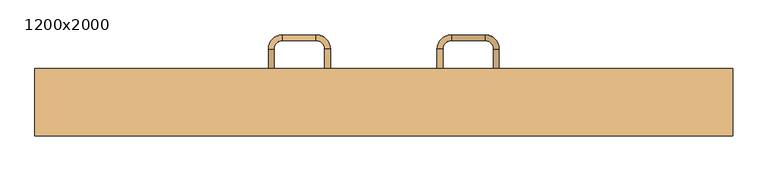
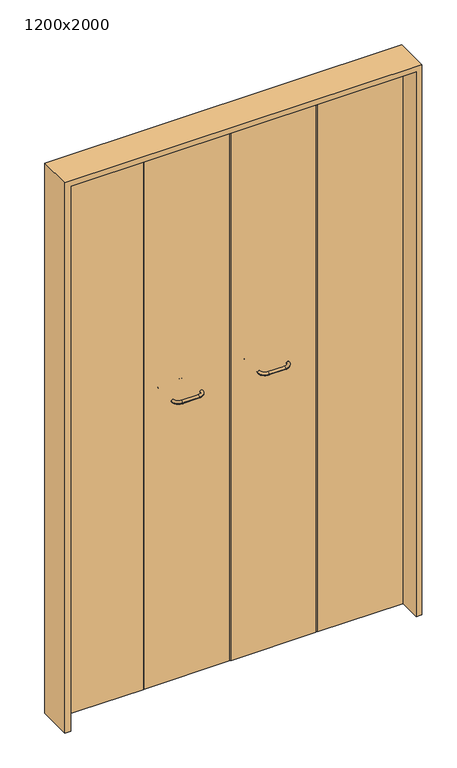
"""IFC4 building model written with IfcOpenShell, lengths in millimetres: door geometry, 木製折戸 : 1200x2000."""

from ifc_helpers import new_model, si_unit, point, frame, origin, origin_with_axes, place, context, project, spatial, polyline, circle_curve, ellipse_curve, trimmed, outline, extrude, source, transform, mapped, element, save
from ifc_brep_helpers import cylinder_surface, revolved_surface, advanced_brep


def door_1200x2000_6a144d60(model_context):
    return source(origin(), model_context, "Body", "SolidModel", [
        extrude(outline(polyline([(2020.0, -620.0), (0.0, -620.0), (0.0, -600.0), (2000.0, -600.0), (2000.0, 600.0), (0.0, 600.0), (0.0, 620.0), (2020.0, 620.0), (2020.0, -620.0)])), frame((0.0, -60.0, 0.0), z_axis=(0.0, 1.0, 0.0), x_axis=(0.0, 0.0, 1.0)), (0.0, 0.0, 1.0), 120.0),
        extrude(outline(polyline([(298.0, 20.0), (2.0, 20.0), (2.0, 50.0), (298.0, 50.0), (298.0, 20.0)])), origin_with_axes(), (0.0, 0.0, 1.0), 2000.0),
        extrude(outline(polyline([(600.0, 20.0), (302.0, 20.0), (302.0, 50.0), (600.0, 50.0), (600.0, 20.0)])), origin_with_axes(), (0.0, 0.0, 1.0), 2000.0),
        extrude(outline(polyline([(-2.0, 20.0), (-298.0, 20.0), (-298.0, 50.0), (-2.0, 50.0), (-2.0, 20.0)])), origin_with_axes(), (0.0, 0.0, 1.0), 2000.0),
        extrude(outline(polyline([(-302.0, 20.0), (-600.0, 20.0), (-600.0, 50.0), (-302.0, 50.0), (-302.0, 20.0)])), origin_with_axes(), (0.0, 0.0, 1.0), 2000.0),
        advanced_brep(
        [(95.0, 20.0, 1025.0), (120.0, -5.0, 1025.0), (120.0, 5.0, 1025.0), (105.0, 20.0, 1025.0), (105.0, 95.0, 1025.0), (95.0, 95.0, 1025.0), (120.0, 120.0, 1025.0), (120.0, 110.0, 1025.0), (180.0, 110.0, 1025.0), (180.0, 120.0, 1025.0), (205.0, 95.0, 1025.0), (195.0, 95.0, 1025.0), (195.0, 20.0, 1025.0), (205.0, 20.0, 1025.0), (180.0, -5.0, 1025.0), (180.0, 5.0, 1025.0)],
        [
            (0, 1, circle_curve(frame((120.0, 20.0, 1025.0), z_axis=(0.0, 0.0, 1.0), x_axis=(0.0, -1.0, 0.0)), 25.0)),
            (1, 2, circle_curve(frame((120.0, 0.0, 1025.0), z_axis=(-1.0, 0.0, 0.0), x_axis=(0.0, -1.0, 0.0)), 5.0)),
            (2, 3, circle_curve(frame((120.0, 20.0, 1025.0), z_axis=(0.0, 0.0, -1.0), x_axis=(0.0, -1.0, 0.0)), 15.0)),
            (3, 0, circle_curve(frame((100.0, 20.0, 1025.0), z_axis=(0.0, -1.0, 0.0), x_axis=(-1.0, 0.0, 0.0)), 5.0)),
            (2, 1, circle_curve(frame((120.0, 0.0, 1025.0), z_axis=(-1.0, 0.0, 0.0), x_axis=(0.0, -1.0, 0.0)), 5.0)),
            (0, 3, circle_curve(frame((100.0, 20.0, 1025.0), z_axis=(0.0, -1.0, 0.0), x_axis=(-1.0, 0.0, 0.0)), 5.0)),
            (3, 4),
            (4, 5, circle_curve(frame((100.0, 95.0, 1025.0), z_axis=(0.0, -1.0, 0.0), x_axis=(-1.0, 0.0, 0.0)), 5.0)),
            (5, 0),
            (5, 4, circle_curve(frame((100.0, 95.0, 1025.0), z_axis=(0.0, -1.0, 0.0), x_axis=(-1.0, 0.0, 0.0)), 5.0)),
            (6, 5, circle_curve(frame((120.0, 95.0, 1025.0), z_axis=(0.0, 0.0, 1.0), x_axis=(-1.0, 0.0, 0.0)), 25.0)),
            (4, 7, circle_curve(frame((120.0, 95.0, 1025.0), z_axis=(0.0, 0.0, -1.0), x_axis=(-1.0, 0.0, 0.0)), 15.0)),
            (7, 6, circle_curve(frame((120.0, 115.0, 1025.0), z_axis=(-1.0, 0.0, 0.0), x_axis=(0.0, 1.0, 0.0)), 5.0)),
            (6, 7, circle_curve(frame((120.0, 115.0, 1025.0), z_axis=(-1.0, 0.0, 0.0), x_axis=(0.0, 1.0, 0.0)), 5.0)),
            (7, 8),
            (8, 9, circle_curve(frame((180.0, 115.0, 1025.0), z_axis=(-1.0, 0.0, 0.0), x_axis=(0.0, 1.0, 0.0)), 5.0)),
            (9, 6),
            (9, 8, circle_curve(frame((180.0, 115.0, 1025.0), z_axis=(-1.0, 0.0, 0.0), x_axis=(0.0, 1.0, 0.0)), 5.0)),
            (10, 9, circle_curve(frame((180.0, 95.0, 1025.0), z_axis=(0.0, 0.0, 1.0), x_axis=(0.0, 1.0, 0.0)), 25.0)),
            (8, 11, circle_curve(frame((180.0, 95.0, 1025.0), z_axis=(0.0, 0.0, -1.0), x_axis=(0.0, 1.0, 0.0)), 15.0)),
            (11, 10, circle_curve(frame((200.0, 95.0, 1025.0), z_axis=(0.0, 1.0, 0.0), x_axis=(1.0, 0.0, 0.0)), 5.0)),
            (10, 11, circle_curve(frame((200.0, 95.0, 1025.0), z_axis=(0.0, 1.0, 0.0), x_axis=(1.0, 0.0, 0.0)), 5.0)),
            (11, 12),
            (12, 13, circle_curve(frame((200.0, 20.0, 1025.0), z_axis=(0.0, 1.0, 0.0), x_axis=(1.0, 0.0, 0.0)), 5.0)),
            (13, 10),
            (13, 12, circle_curve(frame((200.0, 20.0, 1025.0), z_axis=(0.0, 1.0, 0.0), x_axis=(1.0, 0.0, 0.0)), 5.0)),
            (14, 13, circle_curve(frame((180.0, 20.0, 1025.0), z_axis=(0.0, 0.0, 1.0), x_axis=(1.0, 0.0, 0.0)), 25.0)),
            (12, 15, circle_curve(frame((180.0, 20.0, 1025.0), z_axis=(0.0, 0.0, -1.0), x_axis=(1.0, 0.0, 0.0)), 15.0)),
            (15, 14, circle_curve(frame((180.0, 0.0, 1025.0), z_axis=(1.0, 0.0, 0.0), x_axis=(0.0, -1.0, 0.0)), 5.0)),
            (14, 15, circle_curve(frame((180.0, 0.0, 1025.0), z_axis=(1.0, 0.0, 0.0), x_axis=(0.0, -1.0, 0.0)), 5.0)),
            (15, 2),
            (1, 14),
        ],
        [
            revolved_surface(trimmed(ellipse_curve(frame((120.0, 0.0, 1025.0), z_axis=(1.0, 0.0, 0.0), x_axis=(0.0, -1.0, 0.0)), 5.0, 5.0), [point((120.0, 5.0, 1025.0))], [point((120.0, -5.0, 1025.0))], True, "CARTESIAN"), (120.0, 20.0, 0.0), (0.0, 0.0, -1.0)),
            revolved_surface(trimmed(ellipse_curve(frame((120.0, 0.0, 1025.0), z_axis=(1.0, 0.0, 0.0), x_axis=(0.0, -1.0, 0.0)), 5.0, 5.0), [point((120.0, -5.0, 1025.0))], [point((120.0, 5.0, 1025.0))], True, "CARTESIAN"), (120.0, 20.0, 0.0), (0.0, 0.0, -1.0)),
            cylinder_surface(frame((100.0, 20.0, 1025.0), z_axis=(0.0, -1.0, 0.0), x_axis=(-1.0, 0.0, 0.0)), 5.0),
            revolved_surface(trimmed(ellipse_curve(frame((100.0, 95.0, 1025.0), z_axis=(0.0, -1.0, 0.0), x_axis=(-1.0, 0.0, 0.0)), 5.0, 5.0), [point((105.0, 95.0, 1025.0))], [point((95.0, 95.0, 1025.0))], True, "CARTESIAN"), (120.0, 95.0, 0.0), (0.0, 0.0, -1.0)),
            revolved_surface(trimmed(ellipse_curve(frame((100.0, 95.0, 1025.0), z_axis=(0.0, -1.0, 0.0), x_axis=(-1.0, 0.0, 0.0)), 5.0, 5.0), [point((95.0, 95.0, 1025.0))], [point((105.0, 95.0, 1025.0))], True, "CARTESIAN"), (120.0, 95.0, 0.0), (0.0, 0.0, -1.0)),
            cylinder_surface(frame((120.0, 115.0, 1025.0), z_axis=(-1.0, 0.0, 0.0), x_axis=(0.0, 1.0, 0.0)), 5.0),
            revolved_surface(trimmed(ellipse_curve(frame((180.0, 115.0, 1025.0), z_axis=(-1.0, 0.0, 0.0), x_axis=(0.0, 1.0, 0.0)), 5.0, 5.0), [point((180.0, 110.0, 1025.0))], [point((180.0, 120.0, 1025.0))], True, "CARTESIAN"), (180.0, 95.0, 0.0), (0.0, 0.0, -1.0)),
            revolved_surface(trimmed(ellipse_curve(frame((180.0, 115.0, 1025.0), z_axis=(-1.0, 0.0, 0.0), x_axis=(0.0, 1.0, 0.0)), 5.0, 5.0), [point((180.0, 120.0, 1025.0))], [point((180.0, 110.0, 1025.0))], True, "CARTESIAN"), (180.0, 95.0, 0.0), (0.0, 0.0, -1.0)),
            cylinder_surface(frame((200.0, 95.0, 1025.0), z_axis=(0.0, 1.0, 0.0), x_axis=(1.0, 0.0, 0.0)), 5.0),
            revolved_surface(trimmed(ellipse_curve(frame((200.0, 20.0, 1025.0), z_axis=(0.0, 1.0, 0.0), x_axis=(1.0, 0.0, 0.0)), 5.0, 5.0), [point((195.0, 20.0, 1025.0))], [point((205.0, 20.0, 1025.0))], True, "CARTESIAN"), (180.0, 20.0, 0.0), (0.0, 0.0, -1.0)),
            revolved_surface(trimmed(ellipse_curve(frame((200.0, 20.0, 1025.0), z_axis=(0.0, 1.0, 0.0), x_axis=(1.0, 0.0, 0.0)), 5.0, 5.0), [point((205.0, 20.0, 1025.0))], [point((195.0, 20.0, 1025.0))], True, "CARTESIAN"), (180.0, 20.0, 0.0), (0.0, 0.0, -1.0)),
            cylinder_surface(frame((180.0, 0.0, 1025.0), z_axis=(1.0, 0.0, 0.0), x_axis=(0.0, -1.0, 0.0)), 5.0),
        ],
        [
            (0, [[1, 2, 3, 4]]),
            (1, [[-3, 5, -1, 6]]),
            (2, [[-4, 7, 8, 9]]),
            (2, [[-6, -9, 10, -7]]),
            (3, [[11, -8, 12, 13]]),
            (4, [[-12, -10, -11, 14]]),
            (5, [[-13, 15, 16, 17]]),
            (5, [[-14, -17, 18, -15]]),
            (6, [[19, -16, 20, 21]]),
            (7, [[-20, -18, -19, 22]]),
            (8, [[-21, 23, 24, 25]]),
            (8, [[-22, -25, 26, -23]]),
            (9, [[27, -24, 28, 29]]),
            (10, [[-28, -26, -27, 30]]),
            (11, [[-29, 31, -2, 32]]),
            (11, [[-30, -32, -5, -31]]),
        ],
    ),
        advanced_brep(
        [(-105.0, 20.0, 1025.0), (-120.0, 5.0, 1025.0), (-120.0, -5.0, 1025.0), (-95.0, 20.0, 1025.0), (-95.0, 95.0, 1025.0), (-105.0, 95.0, 1025.0), (-120.0, 110.0, 1025.0), (-120.0, 120.0, 1025.0), (-180.0, 120.0, 1025.0), (-180.0, 110.0, 1025.0), (-195.0, 95.0, 1025.0), (-205.0, 95.0, 1025.0), (-205.0, 20.0, 1025.0), (-195.0, 20.0, 1025.0), (-180.0, 5.0, 1025.0), (-180.0, -5.0, 1025.0)],
        [
            (0, 1, circle_curve(frame((-120.0, 20.0, 1025.0), z_axis=(0.0, 0.0, -1.0), x_axis=(0.0, -1.0, 0.0)), 15.0)),
            (1, 2, circle_curve(frame((-120.0, 0.0, 1025.0), z_axis=(1.0, 0.0, 0.0), x_axis=(0.0, 1.0, 0.0)), 5.0)),
            (2, 3, circle_curve(frame((-120.0, 20.0, 1025.0), z_axis=(0.0, 0.0, 1.0), x_axis=(0.0, -1.0, 0.0)), 25.0)),
            (3, 0, circle_curve(frame((-100.0, 20.0, 1025.0), z_axis=(0.0, -1.0, 0.0), x_axis=(-1.0, 0.0, 0.0)), 5.0)),
            (2, 1, circle_curve(frame((-120.0, 0.0, 1025.0), z_axis=(1.0, 0.0, 0.0), x_axis=(0.0, 1.0, 0.0)), 5.0)),
            (0, 3, circle_curve(frame((-100.0, 20.0, 1025.0), z_axis=(0.0, -1.0, 0.0), x_axis=(-1.0, 0.0, 0.0)), 5.0)),
            (3, 4),
            (4, 5, circle_curve(frame((-100.0, 95.0, 1025.0), z_axis=(0.0, -1.0, 0.0), x_axis=(-1.0, 0.0, 0.0)), 5.0)),
            (5, 0),
            (5, 4, circle_curve(frame((-100.0, 95.0, 1025.0), z_axis=(0.0, -1.0, 0.0), x_axis=(-1.0, 0.0, 0.0)), 5.0)),
            (6, 5, circle_curve(frame((-120.0, 95.0, 1025.0), z_axis=(0.0, 0.0, -1.0), x_axis=(1.0, 0.0, 0.0)), 15.0)),
            (4, 7, circle_curve(frame((-120.0, 95.0, 1025.0), z_axis=(0.0, 0.0, 1.0), x_axis=(1.0, 0.0, 0.0)), 25.0)),
            (7, 6, circle_curve(frame((-120.0, 115.0, 1025.0), z_axis=(1.0, 0.0, 0.0), x_axis=(0.0, -1.0, 0.0)), 5.0)),
            (6, 7, circle_curve(frame((-120.0, 115.0, 1025.0), z_axis=(1.0, 0.0, 0.0), x_axis=(0.0, -1.0, 0.0)), 5.0)),
            (7, 8),
            (8, 9, circle_curve(frame((-180.0, 115.0, 1025.0), z_axis=(1.0, 0.0, 0.0), x_axis=(0.0, -1.0, 0.0)), 5.0)),
            (9, 6),
            (9, 8, circle_curve(frame((-180.0, 115.0, 1025.0), z_axis=(1.0, 0.0, 0.0), x_axis=(0.0, -1.0, 0.0)), 5.0)),
            (10, 9, circle_curve(frame((-180.0, 95.0, 1025.0), z_axis=(0.0, 0.0, -1.0), x_axis=(0.0, 1.0, 0.0)), 15.0)),
            (8, 11, circle_curve(frame((-180.0, 95.0, 1025.0), z_axis=(0.0, 0.0, 1.0), x_axis=(0.0, 1.0, 0.0)), 25.0)),
            (11, 10, circle_curve(frame((-200.0, 95.0, 1025.0), z_axis=(0.0, 1.0, 0.0), x_axis=(1.0, 0.0, 0.0)), 5.0)),
            (10, 11, circle_curve(frame((-200.0, 95.0, 1025.0), z_axis=(0.0, 1.0, 0.0), x_axis=(1.0, 0.0, 0.0)), 5.0)),
            (11, 12),
            (12, 13, circle_curve(frame((-200.0, 20.0, 1025.0), z_axis=(0.0, 1.0, 0.0), x_axis=(1.0, 0.0, 0.0)), 5.0)),
            (13, 10),
            (13, 12, circle_curve(frame((-200.0, 20.0, 1025.0), z_axis=(0.0, 1.0, 0.0), x_axis=(1.0, 0.0, 0.0)), 5.0)),
            (14, 13, circle_curve(frame((-180.0, 20.0, 1025.0), z_axis=(0.0, 0.0, -1.0), x_axis=(-1.0, 0.0, 0.0)), 15.0)),
            (12, 15, circle_curve(frame((-180.0, 20.0, 1025.0), z_axis=(0.0, 0.0, 1.0), x_axis=(-1.0, 0.0, 0.0)), 25.0)),
            (15, 14, circle_curve(frame((-180.0, 0.0, 1025.0), z_axis=(-1.0, 0.0, 0.0), x_axis=(0.0, 1.0, 0.0)), 5.0)),
            (14, 15, circle_curve(frame((-180.0, 0.0, 1025.0), z_axis=(-1.0, 0.0, 0.0), x_axis=(0.0, 1.0, 0.0)), 5.0)),
            (15, 2),
            (1, 14),
        ],
        [
            revolved_surface(trimmed(ellipse_curve(frame((-120.0, 0.0, 1025.0), z_axis=(-1.0, 0.0, 0.0), x_axis=(0.0, 1.0, 0.0)), 5.0, 5.0), [point((-120.0, -5.0, 1025.0))], [point((-120.0, 5.0, 1025.0))], True, "CARTESIAN"), (-120.0, 20.0, 0.0), (0.0, 0.0, 1.0)),
            revolved_surface(trimmed(ellipse_curve(frame((-120.0, 0.0, 1025.0), z_axis=(-1.0, 0.0, 0.0), x_axis=(0.0, 1.0, 0.0)), 5.0, 5.0), [point((-120.0, 5.0, 1025.0))], [point((-120.0, -5.0, 1025.0))], True, "CARTESIAN"), (-120.0, 20.0, 0.0), (0.0, 0.0, 1.0)),
            cylinder_surface(frame((-100.0, 20.0, 1025.0), z_axis=(0.0, -1.0, 0.0), x_axis=(-1.0, 0.0, 0.0)), 5.0),
            revolved_surface(trimmed(ellipse_curve(frame((-100.0, 95.0, 1025.0), z_axis=(0.0, -1.0, 0.0), x_axis=(-1.0, 0.0, 0.0)), 5.0, 5.0), [point((-95.0, 95.0, 1025.0))], [point((-105.0, 95.0, 1025.0))], True, "CARTESIAN"), (-120.0, 95.0, 0.0), (0.0, 0.0, 1.0)),
            revolved_surface(trimmed(ellipse_curve(frame((-100.0, 95.0, 1025.0), z_axis=(0.0, -1.0, 0.0), x_axis=(-1.0, 0.0, 0.0)), 5.0, 5.0), [point((-105.0, 95.0, 1025.0))], [point((-95.0, 95.0, 1025.0))], True, "CARTESIAN"), (-120.0, 95.0, 0.0), (0.0, 0.0, 1.0)),
            cylinder_surface(frame((-120.0, 115.0, 1025.0), z_axis=(1.0, 0.0, 0.0), x_axis=(0.0, -1.0, 0.0)), 5.0),
            revolved_surface(trimmed(ellipse_curve(frame((-180.0, 115.0, 1025.0), z_axis=(1.0, 0.0, 0.0), x_axis=(0.0, -1.0, 0.0)), 5.0, 5.0), [point((-180.0, 120.0, 1025.0))], [point((-180.0, 110.0, 1025.0))], True, "CARTESIAN"), (-180.0, 95.0, 0.0), (0.0, 0.0, 1.0)),
            revolved_surface(trimmed(ellipse_curve(frame((-180.0, 115.0, 1025.0), z_axis=(1.0, 0.0, 0.0), x_axis=(0.0, -1.0, 0.0)), 5.0, 5.0), [point((-180.0, 110.0, 1025.0))], [point((-180.0, 120.0, 1025.0))], True, "CARTESIAN"), (-180.0, 95.0, 0.0), (0.0, 0.0, 1.0)),
            cylinder_surface(frame((-200.0, 95.0, 1025.0), z_axis=(0.0, 1.0, 0.0), x_axis=(1.0, 0.0, 0.0)), 5.0),
            revolved_surface(trimmed(ellipse_curve(frame((-200.0, 20.0, 1025.0), z_axis=(0.0, 1.0, 0.0), x_axis=(1.0, 0.0, 0.0)), 5.0, 5.0), [point((-205.0, 20.0, 1025.0))], [point((-195.0, 20.0, 1025.0))], True, "CARTESIAN"), (-180.0, 20.0, 0.0), (0.0, 0.0, 1.0)),
            revolved_surface(trimmed(ellipse_curve(frame((-200.0, 20.0, 1025.0), z_axis=(0.0, 1.0, 0.0), x_axis=(1.0, 0.0, 0.0)), 5.0, 5.0), [point((-195.0, 20.0, 1025.0))], [point((-205.0, 20.0, 1025.0))], True, "CARTESIAN"), (-180.0, 20.0, 0.0), (0.0, 0.0, 1.0)),
            cylinder_surface(frame((-180.0, 0.0, 1025.0), z_axis=(-1.0, 0.0, 0.0), x_axis=(0.0, 1.0, 0.0)), 5.0),
        ],
        [
            (0, [[1, 2, 3, 4]]),
            (1, [[-3, 5, -1, 6]]),
            (2, [[-4, 7, 8, 9]]),
            (2, [[-6, -9, 10, -7]]),
            (3, [[11, -8, 12, 13]]),
            (4, [[-12, -10, -11, 14]]),
            (5, [[-13, 15, 16, 17]]),
            (5, [[-14, -17, 18, -15]]),
            (6, [[19, -16, 20, 21]]),
            (7, [[-20, -18, -19, 22]]),
            (8, [[-21, 23, 24, 25]]),
            (8, [[-22, -25, 26, -23]]),
            (9, [[27, -24, 28, 29]]),
            (10, [[-28, -26, -27, 30]]),
            (11, [[-29, 31, -2, 32]]),
            (11, [[-30, -32, -5, -31]]),
        ],
    ),
    ])


if __name__ == "__main__":
    model = new_model("IFC4")
    model_context = context("Model", 3, world=origin())
    ifc_project = project(units=[si_unit("LENGTHUNIT", "METRE", prefix="MILLI")], contexts=[model_context])
    site = spatial("IfcSite", under=ifc_project)
    building = spatial("IfcBuilding", under=site)
    placement = place(None, origin())
    door_1200x2000_shape = door_1200x2000_6a144d60(model_context)
    element("IfcDoor", 1, ObjectType="木製折戸 : 1200x2000", at=placement, inside=building, context=model_context, shape_type="MappedRepresentation", body=[
        mapped(door_1200x2000_shape, transform((0.0, 0.0, 0.0), x_axis=(1.0, 0.0, 0.0), y_axis=(0.0, 1.0, 0.0), z_axis=(0.0, 0.0, 1.0))),
    ])
    save(model, "model.ifc")
